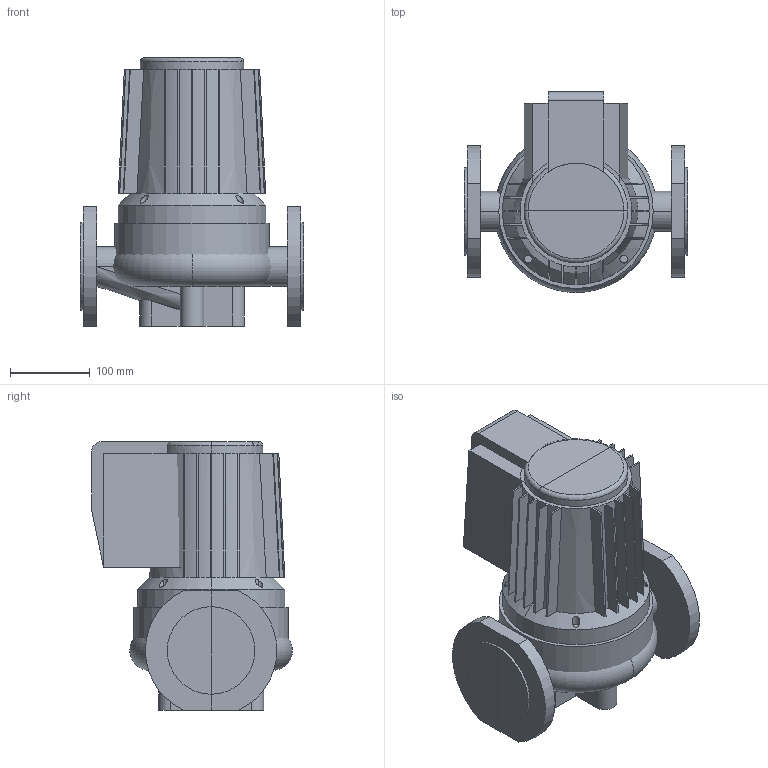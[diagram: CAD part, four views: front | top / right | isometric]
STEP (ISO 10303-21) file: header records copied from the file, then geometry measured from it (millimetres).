
FILE_DESCRIPTION(/* description */ (''),/* implementation_level */ '2;1');
FILE_NAME(/* name */ 'C:\Users\a.zyazeva\Desktop\Wellmix\TG TD WRE WRS\WRS 50-180 SF (380 В).stp',/* time_stamp */ '2024-08-28T00:18:13+03:00',/* author */ ('a.zyazeva'),/* organization */ (''),/* preprocessor_version */ 'ST-DEVELOPER v18.1',/* originating_system */ 'Autodesk Inventor 2022',/* authorisation */ '');
FILE_SCHEMA (('AUTOMOTIVE_DESIGN { 1 0 10303 214 3 1 1 }'));
Length unit declared in the file: millimetre
Products named in the file (1): WRS 50-180 SF (380 В)
Bounding box: 280 x 251.98 x 337 mm (x, y, z)
Volume: 10912160.9 mm3; surface area: 728894.5 mm2
Topology: 6 solids, 6 shells, 171 faces, 421 edges, 263 vertices
Faces by surface type: plane 103, cylinder 30, cone 17, bspline 16, torus 5
Entity records: 6331 total; most frequent: CARTESIAN_POINT 2482, ORIENTED_EDGE 842, DIRECTION 712, EDGE_CURVE 421, VERTEX_POINT 263, AXIS2_PLACEMENT_3D 254, LINE 204, VECTOR 204
